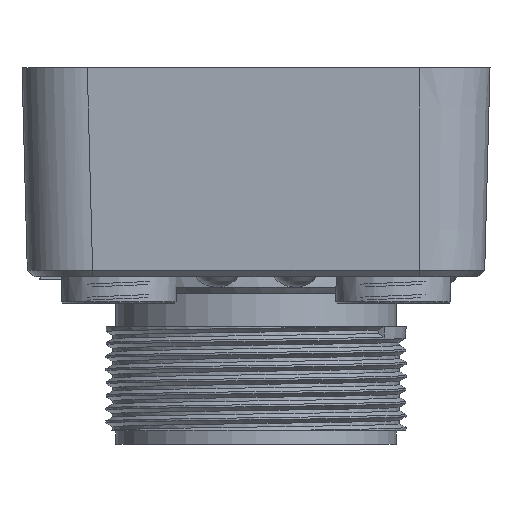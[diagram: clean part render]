
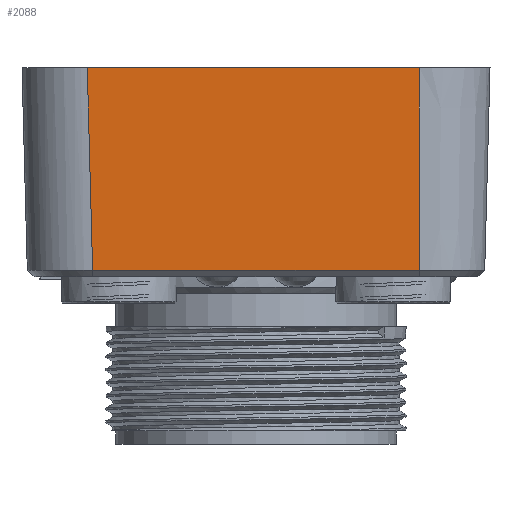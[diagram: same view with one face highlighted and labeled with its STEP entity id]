
A CAD part, left-side view. The second image highlights one B-rep face of the part: STEP entity #2088.
In plain terms, the highlighted planar face has unit normal (-1, 0, -0.026).
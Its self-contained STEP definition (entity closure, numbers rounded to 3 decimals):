
#1211=FACE_OUTER_BOUND('',#5702,.T.);
#2088=ADVANCED_FACE('',(#1211),#3555,.T.);
#3555=PLANE('',#22785);
#5702=EDGE_LOOP('',(#9030,#9031,#9032,#9033));
#9030=ORIENTED_EDGE('',*,*,#16847,.T.);
#9031=ORIENTED_EDGE('',*,*,#16848,.T.);
#9032=ORIENTED_EDGE('',*,*,#16849,.T.);
#9033=ORIENTED_EDGE('',*,*,#16626,.T.);
#14535=VERTEX_POINT('',#31616);
#14536=VERTEX_POINT('',#31618);
#14746=VERTEX_POINT('',#32365);
#14747=VERTEX_POINT('',#32367);
#16626=EDGE_CURVE('',#14536,#14535,#19489,.T.);
#16847=EDGE_CURVE('',#14535,#14746,#19654,.T.);
#16848=EDGE_CURVE('',#14746,#14747,#19655,.T.);
#16849=EDGE_CURVE('',#14747,#14536,#19656,.T.);
#19489=LINE('',#31617,#21104);
#19654=LINE('',#32364,#21269);
#19655=LINE('',#32366,#21270);
#19656=LINE('',#32368,#21271);
#21104=VECTOR('',#25160,1.);
#21269=VECTOR('',#25413,1.);
#21270=VECTOR('',#25414,1.);
#21271=VECTOR('',#25415,1.);
#22785=AXIS2_PLACEMENT_3D('',#32369,#25416,#25417);
#25160=DIRECTION('',(0.,1.,0.));
#25413=DIRECTION('',(0.026,-0.026,-0.999));
#25414=DIRECTION('',(0.,-1.,0.));
#25415=DIRECTION('',(-0.026,0.,1.));
#25416=DIRECTION('',(-1.,0.,-0.026));
#25417=DIRECTION('',(0.026,0.,-1.));
#31616=CARTESIAN_POINT('',(36.581,30.421,16.));
#31617=CARTESIAN_POINT('',(36.581,0.,16.));
#31618=CARTESIAN_POINT('',(36.581,5.,16.));
#32364=CARTESIAN_POINT('',(37.009,29.993,-0.327));
#32365=CARTESIAN_POINT('',(36.987,30.011,0.513));
#32366=CARTESIAN_POINT('',(36.987,17.5,0.513));
#32367=CARTESIAN_POINT('',(36.987,5.,0.513));
#32368=CARTESIAN_POINT('',(37.,5.,0.));
#32369=CARTESIAN_POINT('',(37.,17.5,0.));
